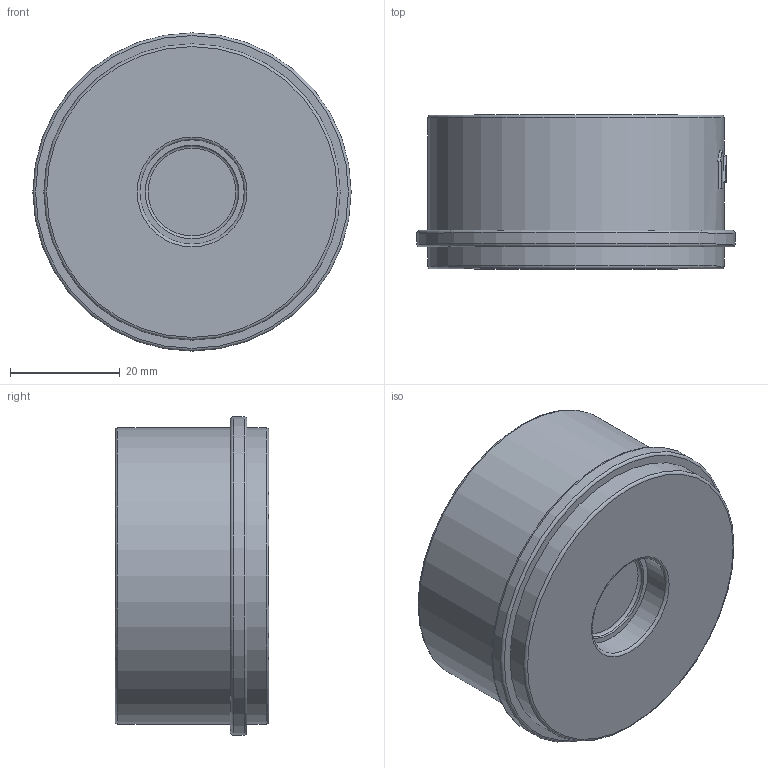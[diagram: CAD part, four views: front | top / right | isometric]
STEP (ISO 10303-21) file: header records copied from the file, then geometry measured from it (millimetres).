
FILE_DESCRIPTION(('STEP AP242'), '1');
FILE_NAME('VCS3232-Fb Êëàïàí îáðàòíûé ïðóæèííûé DN.ru Äó20 Ðó40', '', ('UNSPECIFIED'), ('UNSPECIFIED'), 'C3D Converter', 'C3D Toolkit', '');
FILE_SCHEMA(('AP242_MANAGED_MODEL_BASED_3D_ENGINEERING_MIM_LF { 1 0 10303 442 1 1 4 }'));
Length unit declared in the file: millimetre
Products named in the file (1): VCS3232-Fb
Bounding box: 58 x 28 x 58 mm (x, y, z)
Volume: 27719 mm3; surface area: 19022.3 mm2
Topology: 1 solids, 1 shells, 135 faces, 360 edges, 242 vertices
Faces by surface type: plane 52, extrusion 40, cylinder 28, torus 10, bspline 3, cone 2
Full cylindrical faces by diameter (mm): 5 x1, 11 x2, 17 x1, 19 x1, 27 x1, 28 x1, 34 x1, 48 x1, 54 x2, 58 x1
Entity records: 11203 total; most frequent: CARTESIAN_POINT 7982, ORIENTED_EDGE 666, DIRECTION 537, EDGE_CURVE 333, VERTEX_POINT 242, AXIS2_PLACEMENT_3D 195, EDGE_LOOP 185, FACE_BOUND 166
